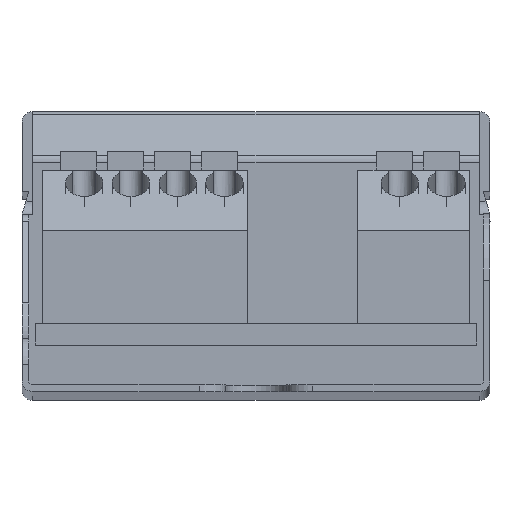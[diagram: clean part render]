
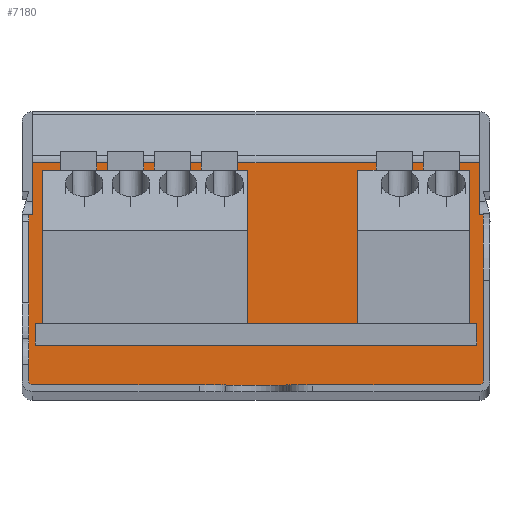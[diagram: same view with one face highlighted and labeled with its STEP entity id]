
A CAD part, top view. The second image highlights one B-rep face of the part: STEP entity #7180.
In plain terms, the highlighted planar face has unit normal (0, 0, 1).
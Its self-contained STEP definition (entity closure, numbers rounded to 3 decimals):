
#72 = EDGE_CURVE ( 'NONE', #1671, #3582, #3312, .T. ) ;
#97 = CIRCLE ( 'NONE', #4121, 0.3 ) ;
#182 = DIRECTION ( 'NONE',  ( 0., 1., 0. ) ) ;
#202 = VERTEX_POINT ( 'NONE', #1846 ) ;
#224 = LINE ( 'NONE', #3666, #9423 ) ;
#231 = ORIENTED_EDGE ( 'NONE', *, *, #4218, .F. ) ;
#431 = CARTESIAN_POINT ( 'NONE',  ( -16.7, 2.8, 162.7 ) ) ;
#589 = EDGE_LOOP ( 'NONE', ( #231, #3085, #1794, #7405, #5949, #3040, #2801, #6216, #7622, #2183 ) ) ;
#703 = LINE ( 'NONE', #6162, #2054 ) ;
#982 = DIRECTION ( 'NONE',  ( -1., 0., 0. ) ) ;
#1023 = VECTOR ( 'NONE', #7860, 1000. ) ;
#1105 = FACE_BOUND ( 'NONE', #1655, .T. ) ;
#1180 = AXIS2_PLACEMENT_3D ( 'NONE', #8419, #5466, #982 ) ;
#1199 = VERTEX_POINT ( 'NONE', #4967 ) ;
#1297 = VERTEX_POINT ( 'NONE', #3891 ) ;
#1327 = EDGE_CURVE ( 'NONE', #4244, #9461, #224, .T. ) ;
#1361 = DIRECTION ( 'NONE',  ( 1., 0., 0. ) ) ;
#1492 = CARTESIAN_POINT ( 'NONE',  ( -16.7, -9.7, 162.7 ) ) ;
#1599 = DIRECTION ( 'NONE',  ( 0., 0., -1. ) ) ;
#1655 = EDGE_LOOP ( 'NONE', ( #8374, #9060, #3535, #6770 ) ) ;
#1671 = VERTEX_POINT ( 'NONE', #9196 ) ;
#1718 = LINE ( 'NONE', #2628, #5470 ) ;
#1794 = ORIENTED_EDGE ( 'NONE', *, *, #8536, .F. ) ;
#1846 = CARTESIAN_POINT ( 'NONE',  ( 16.7, -10., 162.7 ) ) ;
#1935 = CIRCLE ( 'NONE', #4143, 0.3 ) ;
#2054 = VECTOR ( 'NONE', #182, 1000. ) ;
#2173 = LINE ( 'NONE', #3603, #7893 ) ;
#2183 = ORIENTED_EDGE ( 'NONE', *, *, #72, .T. ) ;
#2223 = EDGE_CURVE ( 'NONE', #5595, #4148, #5942, .T. ) ;
#2252 = DIRECTION ( 'NONE',  ( -1., 0., 0. ) ) ;
#2386 = CARTESIAN_POINT ( 'NONE',  ( 16.7, 2.8, 162.7 ) ) ;
#2471 = EDGE_CURVE ( 'NONE', #4438, #202, #7912, .T. ) ;
#2494 = DIRECTION ( 'NONE',  ( 1., 0., 0. ) ) ;
#2536 = EDGE_CURVE ( 'NONE', #1297, #8938, #1718, .T. ) ;
#2628 = CARTESIAN_POINT ( 'NONE',  ( 0., -7., 162.7 ) ) ;
#2788 = EDGE_CURVE ( 'NONE', #4148, #4244, #8233, .T. ) ;
#2801 = ORIENTED_EDGE ( 'NONE', *, *, #6063, .F. ) ;
#2851 = DIRECTION ( 'NONE',  ( 0., 1., 0. ) ) ;
#2909 = CARTESIAN_POINT ( 'NONE',  ( 0., 6.669, 162.7 ) ) ;
#2954 = CARTESIAN_POINT ( 'NONE',  ( 17., -3.45, 162.7 ) ) ;
#3006 = CARTESIAN_POINT ( 'NONE',  ( 0., -10., 162.7 ) ) ;
#3040 = ORIENTED_EDGE ( 'NONE', *, *, #2223, .F. ) ;
#3085 = ORIENTED_EDGE ( 'NONE', *, *, #4337, .T. ) ;
#3189 = DIRECTION ( 'NONE',  ( 1., 0., 0. ) ) ;
#3270 = LINE ( 'NONE', #9322, #1023 ) ;
#3312 = LINE ( 'NONE', #2954, #4825 ) ;
#3535 = ORIENTED_EDGE ( 'NONE', *, *, #9535, .F. ) ;
#3582 = VERTEX_POINT ( 'NONE', #8774 ) ;
#3603 = CARTESIAN_POINT ( 'NONE',  ( 0., -5.4, 162.7 ) ) ;
#3666 = CARTESIAN_POINT ( 'NONE',  ( -16.7, -1.666, 162.7 ) ) ;
#3677 = DIRECTION ( 'NONE',  ( 0., 1., 0. ) ) ;
#3681 = CARTESIAN_POINT ( 'NONE',  ( -16.7, -10., 162.7 ) ) ;
#3891 = CARTESIAN_POINT ( 'NONE',  ( -16.5, -7., 162.7 ) ) ;
#3943 = EDGE_CURVE ( 'NONE', #1671, #202, #97, .T. ) ;
#3955 = LINE ( 'NONE', #9495, #5685 ) ;
#3966 = VECTOR ( 'NONE', #3189, 1000. ) ;
#3984 = PLANE ( 'NONE',  #1180 ) ;
#4121 = AXIS2_PLACEMENT_3D ( 'NONE', #6090, #1599, #6834 ) ;
#4143 = AXIS2_PLACEMENT_3D ( 'NONE', #1492, #6725, #2252 ) ;
#4148 = VERTEX_POINT ( 'NONE', #7788 ) ;
#4218 = EDGE_CURVE ( 'NONE', #6197, #3582, #3270, .T. ) ;
#4237 = LINE ( 'NONE', #2909, #7972 ) ;
#4244 = VERTEX_POINT ( 'NONE', #431 ) ;
#4307 = LINE ( 'NONE', #7999, #7793 ) ;
#4337 = EDGE_CURVE ( 'NONE', #6197, #9348, #4307, .T. ) ;
#4438 = VERTEX_POINT ( 'NONE', #3681 ) ;
#4594 = CARTESIAN_POINT ( 'NONE',  ( -17., -9.7, 162.7 ) ) ;
#4825 = VECTOR ( 'NONE', #2851, 1000. ) ;
#4967 = CARTESIAN_POINT ( 'NONE',  ( 16.5, -5.4, 162.7 ) ) ;
#5048 = CARTESIAN_POINT ( 'NONE',  ( -16.5, -5.4, 162.7 ) ) ;
#5083 = DIRECTION ( 'NONE',  ( -1., 0., 0. ) ) ;
#5086 = FACE_OUTER_BOUND ( 'NONE', #589, .T. ) ;
#5466 = DIRECTION ( 'NONE',  ( 0., 0., -1. ) ) ;
#5470 = VECTOR ( 'NONE', #2494, 1000. ) ;
#5571 = CARTESIAN_POINT ( 'NONE',  ( 16.7, 6.669, 162.7 ) ) ;
#5595 = VERTEX_POINT ( 'NONE', #4594 ) ;
#5654 = CARTESIAN_POINT ( 'NONE',  ( 16.5, -7., 162.7 ) ) ;
#5678 = CARTESIAN_POINT ( 'NONE',  ( -16.7, 6.669, 162.7 ) ) ;
#5685 = VECTOR ( 'NONE', #8781, 1000. ) ;
#5819 = CARTESIAN_POINT ( 'NONE',  ( -17., -1.666, 162.7 ) ) ;
#5938 = DIRECTION ( 'NONE',  ( 0., 1., 0. ) ) ;
#5942 = LINE ( 'NONE', #5819, #6190 ) ;
#5949 = ORIENTED_EDGE ( 'NONE', *, *, #2788, .F. ) ;
#6063 = EDGE_CURVE ( 'NONE', #4438, #5595, #1935, .T. ) ;
#6090 = CARTESIAN_POINT ( 'NONE',  ( 16.7, -9.7, 162.7 ) ) ;
#6162 = CARTESIAN_POINT ( 'NONE',  ( -16.5, -6.2, 162.7 ) ) ;
#6190 = VECTOR ( 'NONE', #5938, 1000. ) ;
#6197 = VERTEX_POINT ( 'NONE', #2386 ) ;
#6216 = ORIENTED_EDGE ( 'NONE', *, *, #2471, .T. ) ;
#6725 = DIRECTION ( 'NONE',  ( 0., 0., -1. ) ) ;
#6770 = ORIENTED_EDGE ( 'NONE', *, *, #9541, .T. ) ;
#6834 = DIRECTION ( 'NONE',  ( 1., 0., 0. ) ) ;
#7180 = ADVANCED_FACE ( 'NONE', ( #1105, #5086 ), #3984, .F. ) ;
#7243 = DIRECTION ( 'NONE',  ( 0., 1., 0. ) ) ;
#7405 = ORIENTED_EDGE ( 'NONE', *, *, #1327, .F. ) ;
#7622 = ORIENTED_EDGE ( 'NONE', *, *, #3943, .F. ) ;
#7788 = CARTESIAN_POINT ( 'NONE',  ( -17., 2.8, 162.7 ) ) ;
#7793 = VECTOR ( 'NONE', #7243, 1000. ) ;
#7860 = DIRECTION ( 'NONE',  ( 1., 0., 0. ) ) ;
#7893 = VECTOR ( 'NONE', #5083, 1000. ) ;
#7912 = LINE ( 'NONE', #3006, #3966 ) ;
#7972 = VECTOR ( 'NONE', #1361, 1000. ) ;
#7999 = CARTESIAN_POINT ( 'NONE',  ( 16.7, 6.65, 162.7 ) ) ;
#8010 = VECTOR ( 'NONE', #8272, 1000. ) ;
#8233 = LINE ( 'NONE', #8316, #8010 ) ;
#8272 = DIRECTION ( 'NONE',  ( 1., 0., 0. ) ) ;
#8316 = CARTESIAN_POINT ( 'NONE',  ( 0., 2.8, 162.7 ) ) ;
#8374 = ORIENTED_EDGE ( 'NONE', *, *, #2536, .F. ) ;
#8419 = CARTESIAN_POINT ( 'NONE',  ( 17.68, -10.459, 162.7 ) ) ;
#8536 = EDGE_CURVE ( 'NONE', #9461, #9348, #4237, .T. ) ;
#8774 = CARTESIAN_POINT ( 'NONE',  ( 17., 2.8, 162.7 ) ) ;
#8779 = EDGE_CURVE ( 'NONE', #1297, #9503, #703, .T. ) ;
#8781 = DIRECTION ( 'NONE',  ( 0., -1., 0. ) ) ;
#8938 = VERTEX_POINT ( 'NONE', #5654 ) ;
#9060 = ORIENTED_EDGE ( 'NONE', *, *, #8779, .T. ) ;
#9196 = CARTESIAN_POINT ( 'NONE',  ( 17., -9.7, 162.7 ) ) ;
#9322 = CARTESIAN_POINT ( 'NONE',  ( 0., 2.8, 162.7 ) ) ;
#9348 = VERTEX_POINT ( 'NONE', #5571 ) ;
#9423 = VECTOR ( 'NONE', #3677, 1000. ) ;
#9461 = VERTEX_POINT ( 'NONE', #5678 ) ;
#9495 = CARTESIAN_POINT ( 'NONE',  ( 16.5, -6.2, 162.7 ) ) ;
#9503 = VERTEX_POINT ( 'NONE', #5048 ) ;
#9535 = EDGE_CURVE ( 'NONE', #1199, #9503, #2173, .T. ) ;
#9541 = EDGE_CURVE ( 'NONE', #1199, #8938, #3955, .T. ) ;
